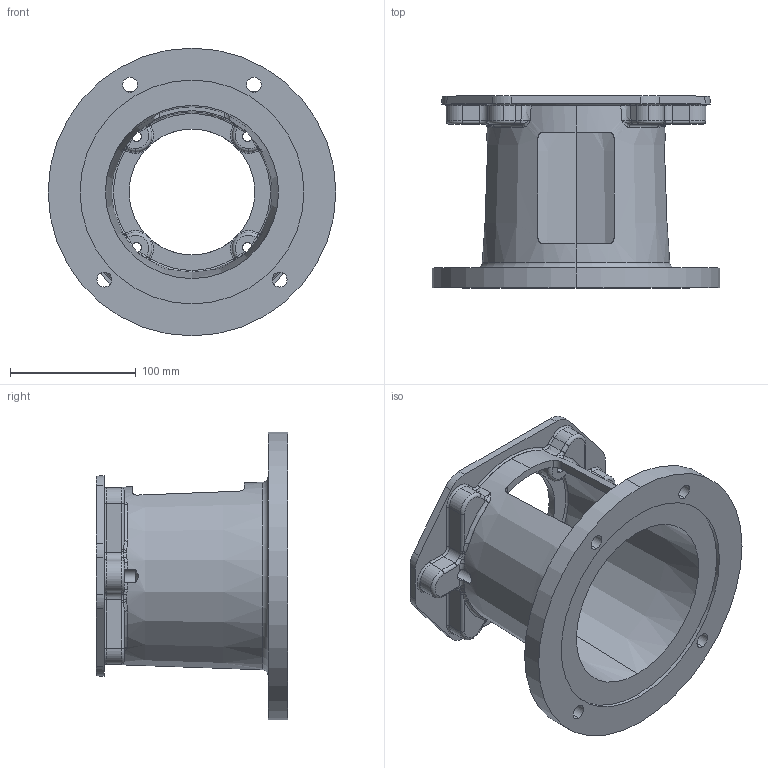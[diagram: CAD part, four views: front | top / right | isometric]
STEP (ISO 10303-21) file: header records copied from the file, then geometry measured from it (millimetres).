
FILE_DESCRIPTION (( 'STEP AP203' ), '1' );
FILE_NAME ('E70060100M.STEP', '2014-11-04T13:17:23', ( '' ), ( '' ), 'SwSTEP 2.0', 'SolidWorks 2014', '' );
FILE_SCHEMA (( 'CONFIG_CONTROL_DESIGN' ));
Length unit declared in the file: inch
Products named in the file (1): E70060100M
Bounding box: 228.6 x 152.4 x 228.6 mm (x, y, z)
Volume: 911755.1 mm3; surface area: 222990.5 mm2
Topology: 1 solids, 1 shells, 294 faces, 772 edges, 451 vertices
Faces by surface type: torus 79, cylinder 74, bspline 64, plane 43, cone 18, sphere 16
Entity records: 11607 total; most frequent: CARTESIAN_POINT 4722, ORIENTED_EDGE 1496, DIRECTION 1434, EDGE_CURVE 748, AXIS2_PLACEMENT_3D 643, VERTEX_POINT 451, CIRCLE 412, EDGE_LOOP 313
